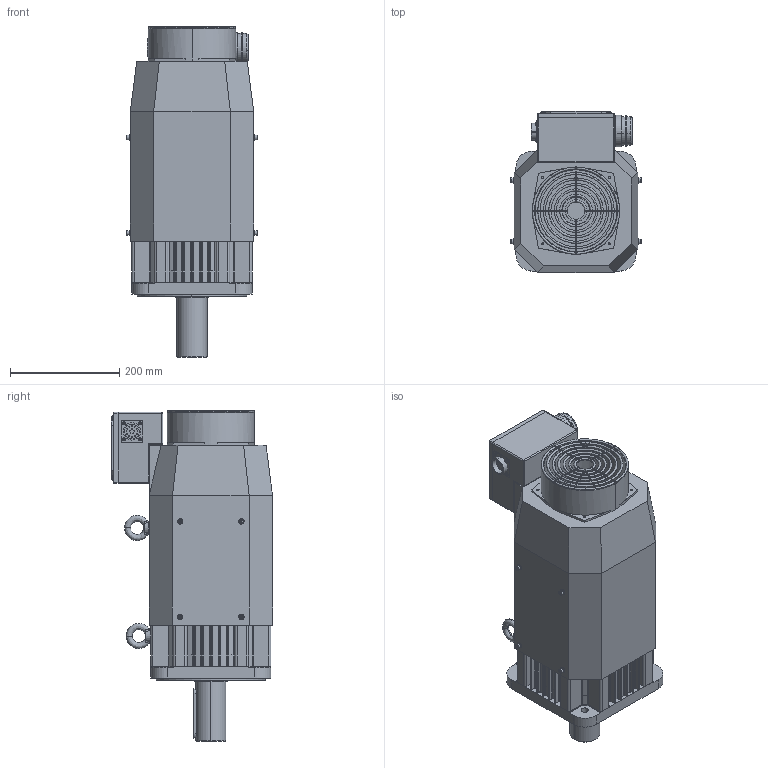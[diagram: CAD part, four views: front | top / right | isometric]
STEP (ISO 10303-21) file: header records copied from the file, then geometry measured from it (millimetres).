
FILE_DESCRIPTION (( 'STEP AP203' ), '1' );
FILE_NAME ('EMB-1ED.STEP', '2020-04-17T09:42:44', ( '' ), ( '' ), 'SwSTEP 2.0', 'SolidWorks 2018', '' );
FILE_SCHEMA (( 'CONFIG_CONTROL_DESIGN' ));
Length unit declared in the file: millimetre
Products named in the file (1): EMB-1ED
Bounding box: 240.6 x 295 x 606 mm (x, y, z)
Volume: 15067231.6 mm3; surface area: 1666477.3 mm2
Topology: 66 solids, 67 shells, 1869 faces, 4566 edges, 2852 vertices
Faces by surface type: plane 789, cylinder 712, cone 170, bspline 146, torus 44, sphere 8
Entity records: 61852 total; most frequent: CARTESIAN_POINT 17874, DIRECTION 9429, ORIENTED_EDGE 8924, EDGE_CURVE 4462, AXIS2_PLACEMENT_3D 3613, VERTEX_POINT 2852, LINE 2203, VECTOR 2203
